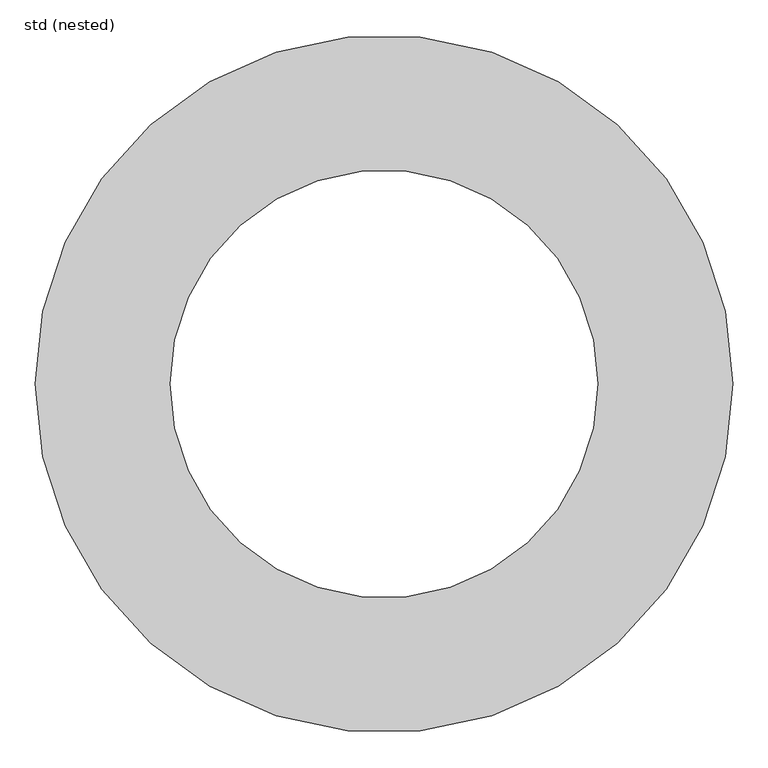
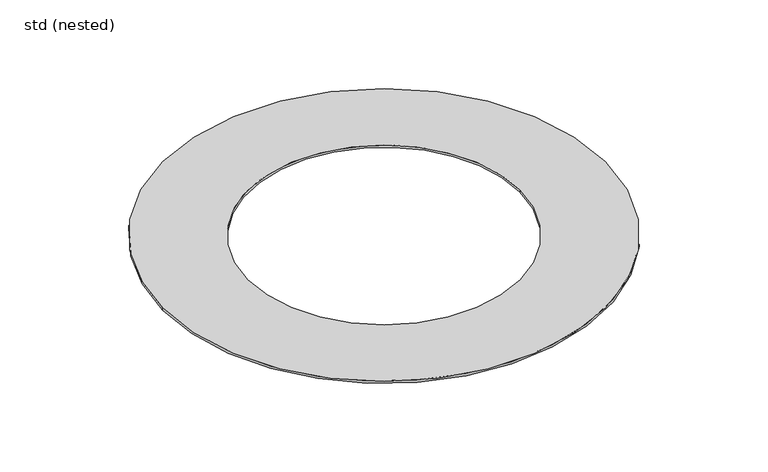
"""IFC4 building model written with IfcOpenShell, lengths in millimetres: unitary equipment geometry, ZZZ_do not use_ME_WPB_flange muliflex_ACO -SH : std (nested)."""

import ifcopenshell
import ifcopenshell.guid

model = None  # the IFC model being written
_history = None  # IfcOwnerHistory: only IFC2X3 demands one
_inside = {}  # id of a spatial element -> (the spatial element, [elements in it])
_under = {}  # id of a project, library or spatial element -> (it, [spatial elements below it])
_declared = {}  # id of a project -> (the project, [libraries it declares])
_typed = {}  # id of a type object -> (the type object, [elements of that type])
_made_of = {}  # id of a material, layer set ... -> (it, [elements and type objects made of it])


def new_model(schema):
    """Start an empty IFC model of exactly this schema.

    Asked for "IFC4X3", IfcOpenShell would pick the latest addendum, in which some entities
    have other attributes; the version numbers below select the first issue.
    IFC2X3 requires an IfcOwnerHistory on every rooted entity: one is made here for all.
    """
    global model, _history
    if schema == "IFC4X3":
        model = ifcopenshell.file(schema_version=(4, 3, 0, 0))
    else:
        model = ifcopenshell.file(schema=schema)
    _inside.clear()
    _under.clear()
    _declared.clear()
    _typed.clear()
    _made_of.clear()
    _history = None
    if model.schema == "IFC2X3":
        org = make("IfcOrganization", Name="unknown")
        user = make(
            "IfcPersonAndOrganization",
            ThePerson=make("IfcPerson", FamilyName="unknown"),
            TheOrganization=org,
        )
        app = make(
            "IfcApplication",
            ApplicationDeveloper=org,
            Version="unknown",
            ApplicationFullName="unknown",
            ApplicationIdentifier="unknown",
        )
        _history = make(
            "IfcOwnerHistory",
            OwningUser=user,
            OwningApplication=app,
            ChangeAction="ADDED",
            CreationDate=0,
        )
    return model


def make(cls, **values):
    """One entity of the class cls with the attributes given. An attribute that is None is left unset."""
    return model.create_entity(
        cls, **{name: value for name, value in values.items() if value is not None}
    )


def rooted(cls, **values):
    """An entity with a GlobalId (a new one), such as an element, a storey or a relation."""
    return make(cls, GlobalId=ifcopenshell.guid.new(), OwnerHistory=_history, **values)


def si_unit(unit_type, name, prefix=None):
    """IfcSIUnit, for example si_unit("LENGTHUNIT", "METRE", prefix="MILLI")."""
    return make("IfcSIUnit", UnitType=unit_type, Prefix=prefix, Name=name)


def assignment(units):
    """IfcUnitAssignment: the units of a project."""
    return None if units is None else make("IfcUnitAssignment", Units=units)


def point(xyz):
    """IfcCartesianPoint."""
    return None if xyz is None else make("IfcCartesianPoint", Coordinates=xyz)


def direction(xyz):
    """IfcDirection."""
    return None if xyz is None else make("IfcDirection", DirectionRatios=xyz)


def frame(location, z_axis=None, x_axis=None):
    """IfcAxis2Placement3D, a coordinate frame: its origin and axes. An axis left out is left unset."""
    return make(
        "IfcAxis2Placement3D",
        Location=point(location),
        Axis=direction(z_axis),
        RefDirection=direction(x_axis),
    )


def frame_2d(location, x_axis=None):
    """IfcAxis2Placement2D, a coordinate frame in the plane: its origin and x axis."""
    return make(
        "IfcAxis2Placement2D", Location=point(location), RefDirection=direction(x_axis)
    )


def origin():
    """The frame at (0, 0, 0) with its axes left unset."""
    return frame((0.0, 0.0, 0.0))


def origin_with_axes():
    """The frame at (0, 0, 0) with the z axis (0, 0, 1) and the x axis (1, 0, 0) written out."""
    return frame((0.0, 0.0, 0.0), z_axis=(0.0, 0.0, 1.0), x_axis=(1.0, 0.0, 0.0))


def origin_2d():
    """The frame at (0, 0) in the plane with its x axis left unset."""
    return frame_2d((0.0, 0.0))


def place(relative_to, where):
    """IfcLocalPlacement: puts the frame where relative to a parent placement (None: the world)."""
    return make(
        "IfcLocalPlacement", PlacementRelTo=relative_to, RelativePlacement=where
    )


def context(
    kind, dimensions, precision=None, world=None, true_north=None, identifier=None
):
    """IfcGeometricRepresentationContext, for example the 3D "Model" context."""
    return make(
        "IfcGeometricRepresentationContext",
        ContextIdentifier=identifier,
        ContextType=kind,
        CoordinateSpaceDimension=dimensions,
        Precision=precision,
        WorldCoordinateSystem=world,
        TrueNorth=true_north,
    )


def project(units=None, contexts=None):
    """IfcProject with its units and contexts."""
    return rooted(
        "IfcProject",
        Name="project",
        RepresentationContexts=contexts,
        UnitsInContext=assignment(units),
    )


def spatial(cls, under=None, at=None, **own):
    """A site, building, storey or space (cls), placed at a placement, below another one or the project."""
    s = rooted(cls, ObjectPlacement=at, **own)
    if under is not None:
        _under.setdefault(under.id(), (under, []))[1].append(s)
    return s


def circle_curve(where, radius):
    """IfcCircle in the frame where."""
    return make("IfcCircle", Position=where, Radius=radius)


def trimmed(basis, trim1, trim2, sense, master):
    """IfcTrimmedCurve: the piece of a basis curve between two trims."""
    return make(
        "IfcTrimmedCurve",
        BasisCurve=basis,
        Trim1=trim1,
        Trim2=trim2,
        SenseAgreement=sense,
        MasterRepresentation=master,
    )


def segment(curve, same_sense, transition):
    """IfcCompositeCurveSegment."""
    return make(
        "IfcCompositeCurveSegment",
        Transition=transition,
        SameSense=same_sense,
        ParentCurve=curve,
    )


def composite_curve(segments, self_intersect=None):
    """IfcCompositeCurve: segments joined end to end."""
    return make("IfcCompositeCurve", Segments=segments, SelfIntersect=self_intersect)


def outline(outer, holes=None, kind="AREA"):
    """IfcArbitraryClosedProfileDef: a profile drawn as a closed curve; with holes, ...WithVoids."""
    if holes is None:
        return make("IfcArbitraryClosedProfileDef", ProfileType=kind, OuterCurve=outer)
    return make(
        "IfcArbitraryProfileDefWithVoids",
        ProfileType=kind,
        OuterCurve=outer,
        InnerCurves=holes,
    )


def extrude(swept, where, along, depth):
    """IfcExtrudedAreaSolid: the profile swept, set in the frame where, extruded along a direction by depth."""
    return make(
        "IfcExtrudedAreaSolid",
        SweptArea=swept,
        Position=where,
        ExtrudedDirection=direction(along),
        Depth=depth,
    )


def shape(context_of_items, identifier, shape_type, items):
    """IfcShapeRepresentation: the items that make up one representation, for example the "Body"."""
    return make(
        "IfcShapeRepresentation",
        ContextOfItems=context_of_items,
        RepresentationIdentifier=identifier,
        RepresentationType=shape_type,
        Items=items,
    )


def source(mapping_origin, context_of_items, identifier, shape_type, items):
    """IfcRepresentationMap: a shape defined once, which mapped items show again and again."""
    return make(
        "IfcRepresentationMap",
        MappingOrigin=mapping_origin,
        MappedRepresentation=shape(context_of_items, identifier, shape_type, items),
    )


def transform(
    local_origin,
    x_axis=None,
    y_axis=None,
    z_axis=None,
    scale=None,
    scale2=None,
    scale3=None,
    uniform=True,
):
    """IfcCartesianTransformationOperator3D, or its non-uniform kind. x_axis, y_axis, z_axis: its Axis1, 2, 3."""
    if uniform:
        return make(
            "IfcCartesianTransformationOperator3D",
            Axis1=direction(x_axis),
            Axis2=direction(y_axis),
            LocalOrigin=point(local_origin),
            Scale=scale,
            Axis3=direction(z_axis),
        )
    return make(
        "IfcCartesianTransformationOperator3DnonUniform",
        Axis1=direction(x_axis),
        Axis2=direction(y_axis),
        LocalOrigin=point(local_origin),
        Scale=scale,
        Axis3=direction(z_axis),
        Scale2=scale2,
        Scale3=scale3,
    )


def mapped(mapping_source, mapping_target):
    """IfcMappedItem: shows the shape of a source again, moved by a transform."""
    return make(
        "IfcMappedItem", MappingSource=mapping_source, MappingTarget=mapping_target
    )


def made_of(thing, what):
    """Note that an element or type object is made of a material, layer set ...; save() writes the relation."""
    if what is not None:
        _made_of.setdefault(what.id(), (what, []))[1].append(thing)
    return thing


def element(
    cls,
    number,
    at=None,
    inside=None,
    cuts=None,
    type_object=None,
    material=None,
    context=None,
    identifier="Body",
    shape_type=None,
    held_by="IfcProductDefinitionShape",
    body=None,
    shapes=None,
    **own,
):
    """One element of the class cls, such as IfcWall. Its Tag is "e" and its number.

    at: its placement. inside: the storey or other place that contains it. cuts: it is an
    opening in that element (IfcRelVoidsElement). A single representation is given by context,
    identifier, shape_type and body (its items); several are given by shapes. held_by: the class
    of the entity that holds the representations. save() writes the other relations.
    """
    e = rooted(cls, Tag="e%d" % number, ObjectPlacement=at, **own)
    if body is not None:
        shapes = [shape(context, identifier, shape_type, body)]
    if shapes is not None:
        e.Representation = make(held_by, Representations=shapes)
    if inside is not None:
        _inside.setdefault(inside.id(), (inside, []))[1].append(e)
    if cuts is not None:
        rooted(
            "IfcRelVoidsElement", RelatingBuildingElement=cuts, RelatedOpeningElement=e
        )
    if type_object is not None:
        _typed.setdefault(type_object.id(), (type_object, []))[1].append(e)
    return made_of(e, material)


def aggregate(whole, parts):
    """IfcRelAggregates: a whole, such as a stair, and the parts it consists of."""
    return rooted("IfcRelAggregates", RelatingObject=whole, RelatedObjects=parts)


def save(model, path):
    """Write the relations noted so far, then the file.

    IfcRelAggregates (storeys below a building ...), IfcRelContainedInSpatialStructure (elements
    in a storey), IfcRelDefinesByType, IfcRelAssociatesMaterial and IfcRelDeclares: one each for
    every whole, place, type object, material and project.
    """
    for whole, parts in _under.values():
        aggregate(whole, parts)
    for where, things in _inside.values():
        rooted(
            "IfcRelContainedInSpatialStructure",
            RelatedElements=things,
            RelatingStructure=where,
        )
    for kind, things in _typed.values():
        rooted("IfcRelDefinesByType", RelatedObjects=things, RelatingType=kind)
    for what, things in _made_of.values():
        rooted("IfcRelAssociatesMaterial", RelatedObjects=things, RelatingMaterial=what)
    for by, libraries in _declared.values():
        rooted("IfcRelDeclares", RelatingContext=by, RelatedDefinitions=libraries)
    model.write(path)


def std_nested_613c7ef1(model_context):
    return source(origin(), model_context, "Body", "SweptSolid", [
        extrude(outline(composite_curve([segment(trimmed(circle_curve(origin_2d(), 495.0), [point((-495.0, 0.0))], [point((495.0, 0.0))], False, "CARTESIAN"), True, "CONTINUOUS"), segment(trimmed(circle_curve(origin_2d(), 495.0), [point((495.0, 0.0))], [point((-495.0, 0.0))], False, "CARTESIAN"), True, "CONTINUOUS")], self_intersect=False), holes=[composite_curve([segment(trimmed(circle_curve(origin_2d(), 303.5), [point((-303.5, 0.0))], [point((303.5, 0.0))], True, "CARTESIAN"), True, "CONTINUOUS"), segment(trimmed(circle_curve(origin_2d(), 303.5), [point((303.5, 0.0))], [point((-303.5, 0.0))], True, "CARTESIAN"), True, "CONTINUOUS")], self_intersect=False)]), origin_with_axes(), (0.0, 0.0, 1.0), 5.0),
    ])


if __name__ == "__main__":
    model = new_model("IFC4")
    model_context = context("Model", 3, world=origin())
    ifc_project = project(units=[si_unit("LENGTHUNIT", "METRE", prefix="MILLI")], contexts=[model_context])
    site = spatial("IfcSite", under=ifc_project)
    building = spatial("IfcBuilding", under=site)
    placement = place(None, origin())
    std_nested_shape = std_nested_613c7ef1(model_context)
    element("IfcUnitaryEquipment", 1, ObjectType="ZZZ_do not use_ME_WPB_flange muliflex_ACO -SH : std (nested)", at=placement, inside=building, context=model_context, shape_type="MappedRepresentation", body=[
        mapped(std_nested_shape, transform((0.0, 0.0, 0.0), x_axis=(1.0, 0.0, 0.0), y_axis=(0.0, 1.0, 0.0), z_axis=(0.0, 0.0, 1.0))),
    ])
    save(model, "model.ifc")
